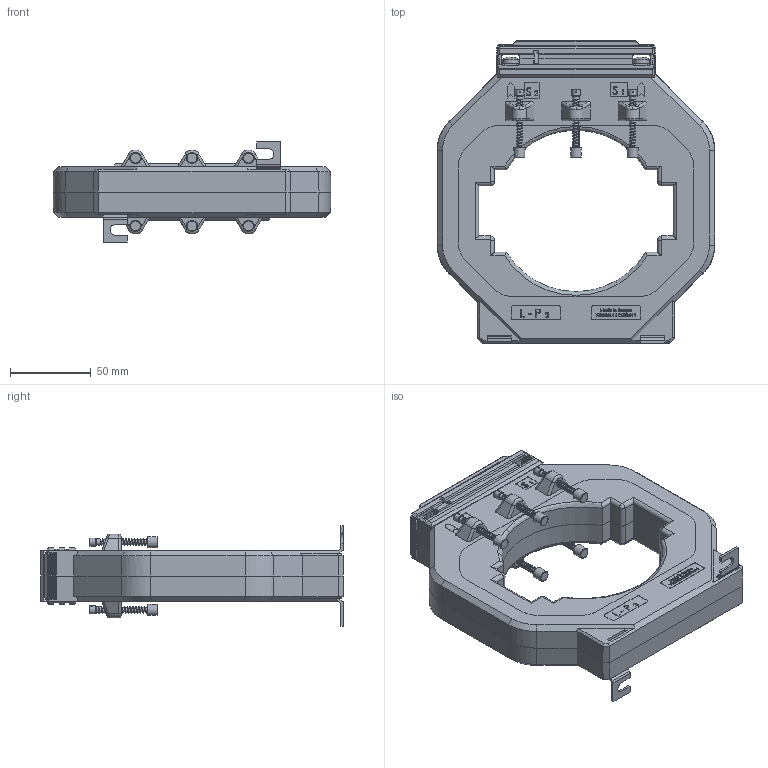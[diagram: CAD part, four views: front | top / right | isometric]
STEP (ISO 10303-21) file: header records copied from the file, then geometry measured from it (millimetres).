
FILE_DESCRIPTION(/* description */ ('STEP AP214'),/* implementation_level */ '2;1');
FILE_NAME(/* name */ 'ASK123.3.stp',/* time_stamp */ '2024-03-04T14:32:46+01:00',/* author */ ('JDI'),/* organization */ (''),/* preprocessor_version */ 'ST-DEVELOPER v19.2',/* originating_system */ 'Autodesk Inventor 2023',/* authorisation */ '');
FILE_SCHEMA (('AUTOMOTIVE_DESIGN { 1 0 10303 214 3 1 1 }'));
Products named in the file (10): ASK123_3_kpl; ASK123_3_Gehäuse-Unterteil; Plombierplatte_B; ASK123_3_Gehäuse-Unterteil_Halbschale_01; Verschlussklappe_28mm; Fusswinkel_1,5; Isolierschutzkappe; Linsenschraube DIN 7985 4.8 VZ M 5 x 10; Plastite_Schraube_40_mit-Gewinde; MBS_WN-003_04_Klemme_WN-003_02
Assembly tree (29 placements, depth 2):
  ASK123_3_kpl
    Isolierschutzkappe  x8
    Verschlussklappe_28mm  x2
    Plastite_Schraube_40_mit-Gewinde  x8
    Linsenschraube DIN 7985 4.8 VZ M 5 x 10  x4
    Fusswinkel_1,5  x2
    ASK123_3_Gehäuse-Unterteil
    Plombierplatte_B
    ASK123_3_Gehäuse-Unterteil_Halbschale_01
    MBS_WN-003_04_Klemme_WN-003_02  x2
Bounding box: 172 x 187.5 x 62 mm (x, y, z)
Volume: 569434.7 mm3; surface area: 129246.3 mm2
Topology: 29 solids, 29 shells, 2286 faces, 5950 edges, 3858 vertices
Faces by surface type: plane 1304, cylinder 540, bspline 356, cone 64, torus 14, sphere 8
Full cylindrical faces by diameter (mm): 2.95 x2, 3 x150, 3.4 x6, 3.8 x8, 4 x144, 4.1 x8, 4.2 x4, 4.4 x6, 5 x12, 10 x4
Entity records: 73856 total; most frequent: CARTESIAN_POINT 34145, ORIENTED_EDGE 8808, DIRECTION 6793, EDGE_CURVE 4404, LINE 3217, VECTOR 3217, VERTEX_POINT 2879, EDGE_LOOP 1821
